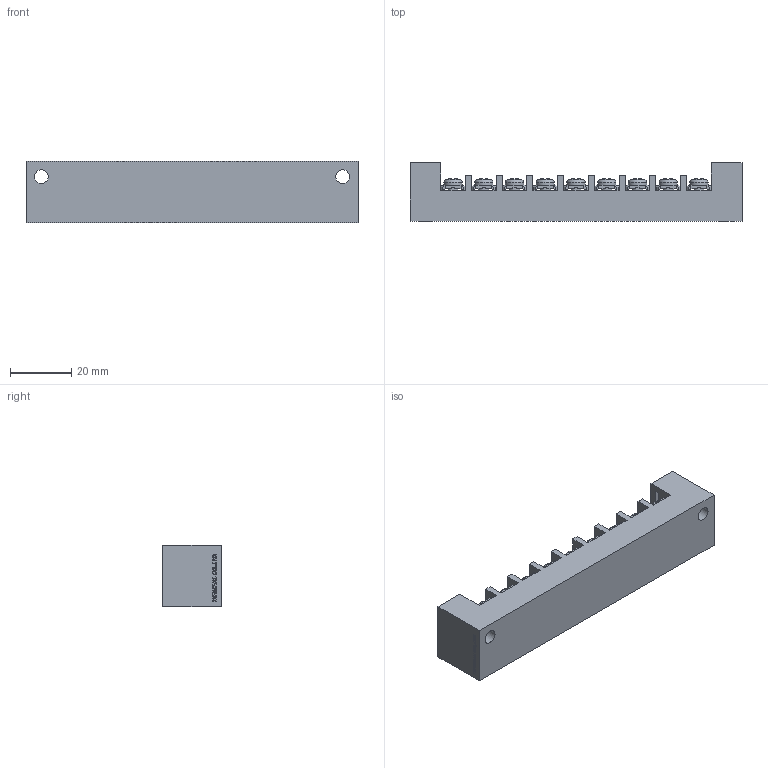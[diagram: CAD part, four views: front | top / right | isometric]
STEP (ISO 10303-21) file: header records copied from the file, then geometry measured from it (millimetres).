
FILE_DESCRIPTION(/* description */ ('Alibre Inc.'),/* implementation_level */ '2;1');
FILE_NAME(/* name */ 'export0',/* time_stamp */ '2016-02-13T17:55:11+09:00',/* author */ (''),/* organization */ (''),/* preprocessor_version */ 'ST-DEVELOPER v14',/* originating_system */ 'Alibre',/* authorisation */ '');
FILE_SCHEMA (('CONFIG_CONTROL_DESIGN'));
Length unit declared in the file: centimetre
Products named in the file (1): ID_1
Bounding box: 108 x 19 x 20 mm (x, y, z)
Volume: 27662 mm3; surface area: 14184.5 mm2
Topology: 1 solids, 19 shells, 1871 faces, 5070 edges, 3200 vertices
Faces by surface type: plane 1257, bspline 340, cone 90, extrusion 72, cylinder 58, sphere 36, torus 18
Full cylindrical faces by diameter (mm): 3.5 x36, 4.5 x2, 6 x18, 7 x2
Entity records: 67088 total; most frequent: CARTESIAN_POINT 25246, ORIENTED_EDGE 9880, DIRECTION 6063, EDGE_CURVE 4940, VECTOR 3353, LINE 3317, VERTEX_POINT 3164, EDGE_LOOP 2094
